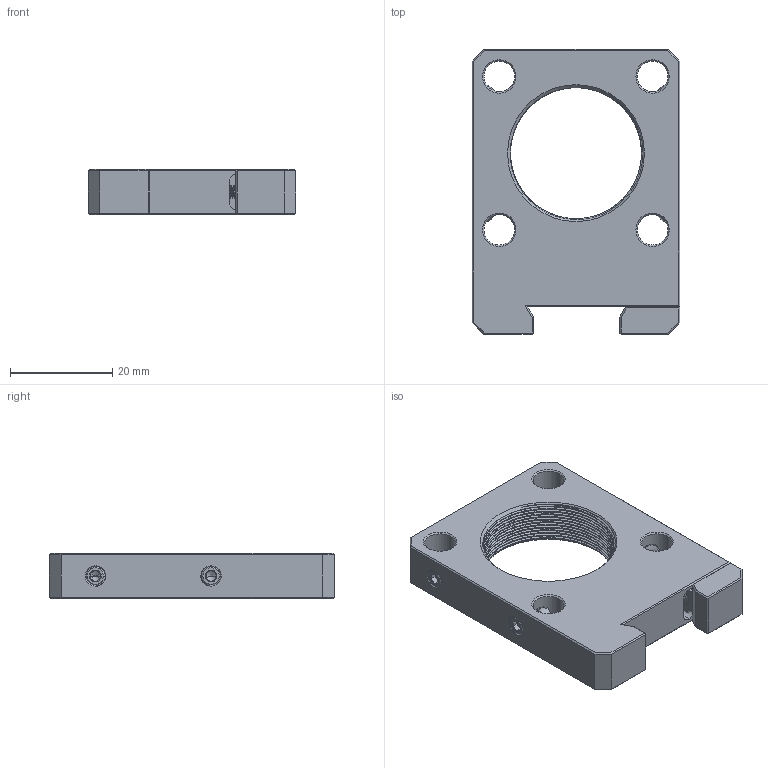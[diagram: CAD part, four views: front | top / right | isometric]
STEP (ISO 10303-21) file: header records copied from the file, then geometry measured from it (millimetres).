
FILE_DESCRIPTION((''),'2;1');
FILE_NAME('LRA30-A_ASM','2024-12-04T15:55:51',('R&D'),(''),'CREO PARAMETRIC BY PTC INC, 2021063','CREO PARAMETRIC BY PTC INC, 2021063','');
FILE_SCHEMA(('CONFIG_CONTROL_DESIGN'));
Products named in the file (12): LRA30-A-A3; LRA30-A-A4; LRA30-A-A5; LRA30-A-A6; LRA30-A-A7; LRA30-A-A8; LRA30-A-A9; LRA30-A-B1; LRA30-A-B2; LRA30-A-A2_ASM; LRA30-A-A1_ASM; LRA30-A_ASM
Assembly tree (11 placements, depth 4):
  LRA30-A_ASM
    LRA30-A-A1_ASM
      LRA30-A-A2_ASM
        LRA30-A-A3
        LRA30-A-A4
        LRA30-A-A5
        LRA30-A-A6
        LRA30-A-A7
        LRA30-A-A8
        LRA30-A-A9
        LRA30-A-B1
        LRA30-A-B2
Bounding box: 40.64 x 55.83 x 8.89 mm (x, y, z)
Volume: 13070.3 mm3; surface area: 8213.9 mm2
Topology: 8 solids, 8 shells, 755 faces, 2007 edges, 1256 vertices
Faces by surface type: cylinder 273, bspline 232, plane 147, cone 99, extrusion 4
Entity records: 86865 total; most frequent: CARTESIAN_POINT 70812, ORIENTED_EDGE 3978, DIRECTION 2138, EDGE_CURVE 1989, VERTEX_POINT 1256, B_SPLINE_CURVE_WITH_KNOTS 1148, EDGE_LOOP 783, FACE_OUTER_BOUND 755
